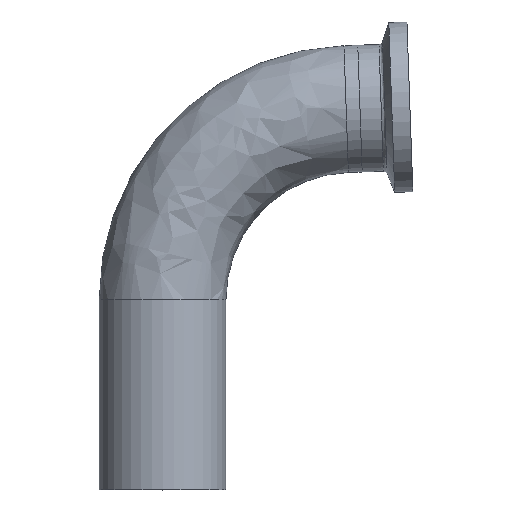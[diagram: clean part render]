
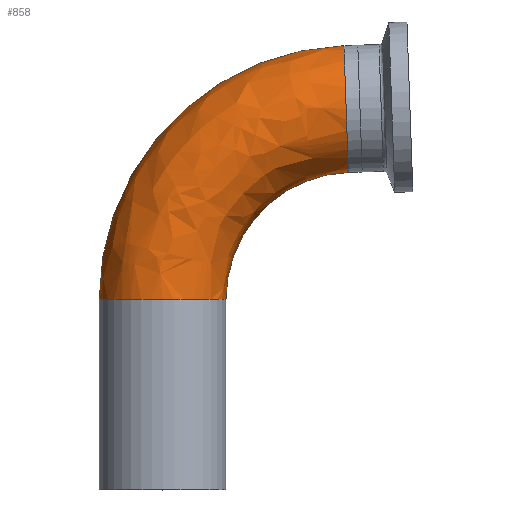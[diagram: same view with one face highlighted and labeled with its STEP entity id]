
A CAD part, top view. The second image highlights one B-rep face of the part: STEP entity #858.
In plain terms, the highlighted free-form (B-spline) face has degree [3, 3] with [4, 4] control points.
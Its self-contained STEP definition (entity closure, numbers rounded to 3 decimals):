
#40 = ORIENTED_EDGE ( 'NONE', *, *, #384, .T. ) ;
#115 = DIRECTION ( 'NONE',  ( -1., 0., 0. ) ) ;
#116 = VERTEX_POINT ( 'NONE', #291 ) ;
#193 = CARTESIAN_POINT ( 'NONE',  ( 38.1, 38.188, 0. ) ) ;
#201 = DIRECTION ( 'NONE',  ( 0., 0., -1. ) ) ;
#252 = CIRCLE ( 'NONE', #804, 12.7 ) ;
#291 = CARTESIAN_POINT ( 'NONE',  ( 36.327, 88.957, 0. ) ) ;
#325 = CARTESIAN_POINT ( 'NONE',  ( 12.7, 38.188, 0. ) ) ;
#344 = CARTESIAN_POINT ( 'NONE',  ( 37.214, 63.572, 25.4 ) ) ;
#384 = EDGE_CURVE ( 'NONE', #995, #1133, #252, .T. ) ;
#415 = CIRCLE ( 'NONE', #864, 25.4 ) ;
#502 = CARTESIAN_POINT ( 'NONE',  ( 37.214, 63.572, 0. ) ) ;
#527 = DIRECTION ( 'NONE',  ( -0.035, 0.999, 0. ) ) ;
#532 = DIRECTION ( 'NONE',  ( -0.999, -0.035, 0. ) ) ;
#540 = CARTESIAN_POINT ( 'NONE',  ( 36.77, 76.264, 0. ) ) ;
#613 = CARTESIAN_POINT ( 'NONE',  ( -12.7, 38.188, 0. ) ) ;
#695 = AXIS2_PLACEMENT_3D ( 'NONE', #841, #853, #861 ) ;
#715 = CARTESIAN_POINT ( 'NONE',  ( -12.7, 38.188, 0. ) ) ;
#767 = CARTESIAN_POINT ( 'NONE',  ( 12.7, 38.188, 0. ) ) ;
#785 = CIRCLE ( 'NONE', #695, 50.8 ) ;
#804 = AXIS2_PLACEMENT_3D ( 'NONE', #922, #915, #894 ) ;
#812 = CARTESIAN_POINT ( 'NONE',  ( -12.7, 67.128, 0. ) ) ;
#841 = CARTESIAN_POINT ( 'NONE',  ( 38.1, 38.188, 0. ) ) ;
#851 = EDGE_CURVE ( 'NONE', #995, #116, #785, .T. ) ;
#853 = DIRECTION ( 'NONE',  ( 0., 0., -1. ) ) ;
#858 = ADVANCED_FACE ( 'NONE', ( #976 ), #1244, .T. ) ;
#861 = DIRECTION ( 'NONE',  ( -1., 0., 0. ) ) ;
#864 = AXIS2_PLACEMENT_3D ( 'NONE', #193, #201, #115 ) ;
#894 = DIRECTION ( 'NONE',  ( -1., 0., 0. ) ) ;
#915 = DIRECTION ( 'NONE',  ( 0., 1., 0. ) ) ;
#922 = CARTESIAN_POINT ( 'NONE',  ( 0., 38.188, 0. ) ) ;
#955 = CARTESIAN_POINT ( 'NONE',  ( 7.404, 87.947, 0. ) ) ;
#956 = ORIENTED_EDGE ( 'NONE', *, *, #1032, .T. ) ;
#976 = FACE_OUTER_BOUND ( 'NONE', #1140, .T. ) ;
#995 = VERTEX_POINT ( 'NONE', #715 ) ;
#1023 = CARTESIAN_POINT ( 'NONE',  ( 36.327, 88.957, 0. ) ) ;
#1027 = CARTESIAN_POINT ( 'NONE',  ( -12.7, 38.188, 25.4 ) ) ;
#1032 = EDGE_CURVE ( 'NONE', #1077, #116, #1086, .T. ) ;
#1033 = CARTESIAN_POINT ( 'NONE',  ( -12.7, 67.128, 25.4 ) ) ;
#1041 = CARTESIAN_POINT ( 'NONE',  ( 7.404, 87.947, 25.4 ) ) ;
#1043 = AXIS2_PLACEMENT_3D ( 'NONE', #540, #532, #527 ) ;
#1057 = CARTESIAN_POINT ( 'NONE',  ( 36.327, 88.957, 25.4 ) ) ;
#1074 = CARTESIAN_POINT ( 'NONE',  ( 12.7, 38.188, 25.4 ) ) ;
#1077 = VERTEX_POINT ( 'NONE', #502 ) ;
#1079 = CARTESIAN_POINT ( 'NONE',  ( 12.7, 52.658, 25.4 ) ) ;
#1085 = CARTESIAN_POINT ( 'NONE',  ( 22.752, 63.067, 25.4 ) ) ;
#1086 = CIRCLE ( 'NONE', #1043, 12.7 ) ;
#1132 = CARTESIAN_POINT ( 'NONE',  ( 12.7, 52.658, 0. ) ) ;
#1133 = VERTEX_POINT ( 'NONE', #767 ) ;
#1134 = CARTESIAN_POINT ( 'NONE',  ( 22.752, 63.067, 0. ) ) ;
#1137 = CARTESIAN_POINT ( 'NONE',  ( 37.214, 63.572, 0. ) ) ;
#1140 = EDGE_LOOP ( 'NONE', ( #40, #1297, #956, #1249 ) ) ;
#1148 = EDGE_CURVE ( 'NONE', #1133, #1077, #415, .T. ) ;
#1244 =( BOUNDED_SURFACE ( )  B_SPLINE_SURFACE ( 3, 3, ( 
 ( #613, #812, #955, #1023 ),
 ( #1027, #1033, #1041, #1057 ),
 ( #1074, #1079, #1085, #344 ),
 ( #325, #1132, #1134, #1137 ) ),
 .UNSPECIFIED., .F., .F., .T. ) 
 B_SPLINE_SURFACE_WITH_KNOTS ( ( 4, 4 ),
 ( 4, 4 ),
 ( 0., 1. ),
 ( 0., 1. ),
 .UNSPECIFIED. ) 
 GEOMETRIC_REPRESENTATION_ITEM ( )  RATIONAL_B_SPLINE_SURFACE ( (
 ( 1., 0.813, 0.813, 1.),
 ( 0.333, 0.271, 0.271, 0.333),
 ( 0.333, 0.271, 0.271, 0.333),
 ( 1., 0.813, 0.813, 1.) ) ) 
 REPRESENTATION_ITEM ( '' )  SURFACE ( )  );
#1249 = ORIENTED_EDGE ( 'NONE', *, *, #851, .F. ) ;
#1297 = ORIENTED_EDGE ( 'NONE', *, *, #1148, .T. ) ;
